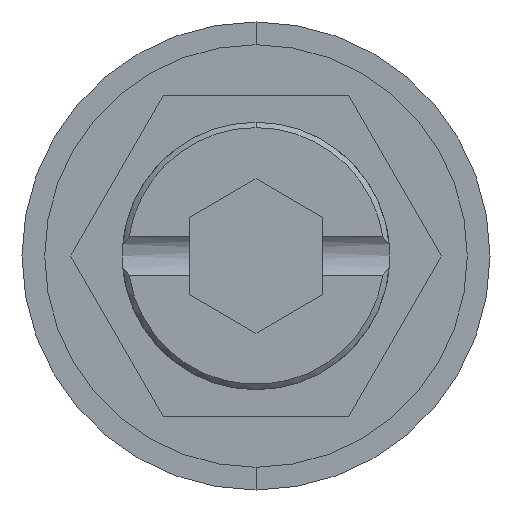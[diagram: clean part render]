
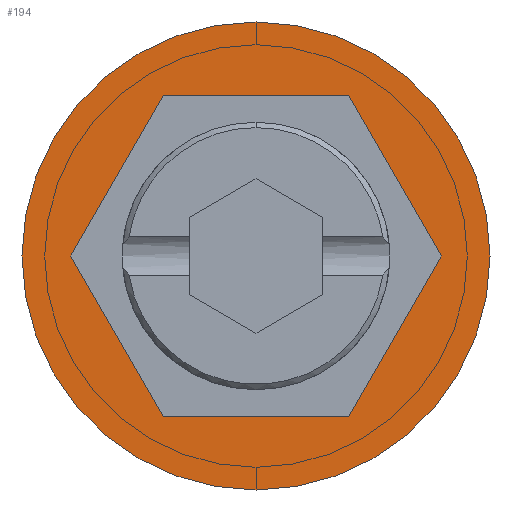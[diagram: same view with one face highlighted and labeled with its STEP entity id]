
A CAD part, front view. The second image highlights one B-rep face of the part: STEP entity #194.
In plain terms, the highlighted planar face has unit normal (0, -1, 0).
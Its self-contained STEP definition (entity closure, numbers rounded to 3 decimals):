
#68 = AXIS2_PLACEMENT_3D ( 'NONE', #1694, #1696, #1698 ) ;
#96 = VECTOR ( 'NONE', #1178, 1000. ) ;
#108 = LINE ( 'NONE', #1192, #96 ) ;
#155 = VECTOR ( 'NONE', #1467, 1000. ) ;
#164 = LINE ( 'NONE', #1426, #155 ) ;
#194 = ADVANCED_FACE ( 'NONE', ( #507, #498 ), #818, .T. ) ;
#213 = LINE ( 'NONE', #1579, #215 ) ;
#215 = VECTOR ( 'NONE', #1582, 1000. ) ;
#255 = VECTOR ( 'NONE', #1755, 1000. ) ;
#256 = LINE ( 'NONE', #1715, #255 ) ;
#267 = CIRCLE ( 'NONE', #68, 8.75 ) ;
#292 = VECTOR ( 'NONE', #2067, 1000. ) ;
#313 = LINE ( 'NONE', #1981, #292 ) ;
#337 = CARTESIAN_POINT ( 'NONE',  ( 3.464, 0., -6. ) ) ;
#498 = FACE_OUTER_BOUND ( 'NONE', #1615, .T. ) ;
#507 = FACE_BOUND ( 'NONE', #1762, .T. ) ;
#516 = AXIS2_PLACEMENT_3D ( 'NONE', #872, #934, #965 ) ;
#536 = DIRECTION ( 'NONE',  ( 0., 0., -1. ) ) ;
#541 = DIRECTION ( 'NONE',  ( 0., -1., 0. ) ) ;
#543 = CARTESIAN_POINT ( 'NONE',  ( 0., 0., 0. ) ) ;
#658 = LINE ( 'NONE', #765, #660 ) ;
#660 = VECTOR ( 'NONE', #761, 1000. ) ;
#713 = VERTEX_POINT ( 'NONE', #1175 ) ;
#726 = CARTESIAN_POINT ( 'NONE',  ( 0., 0., 8.75 ) ) ;
#761 = DIRECTION ( 'NONE',  ( 0.5, 0., 0.866 ) ) ;
#765 = CARTESIAN_POINT ( 'NONE',  ( 3.464, 0., -6. ) ) ;
#818 = PLANE ( 'NONE',  #516 ) ;
#867 = VERTEX_POINT ( 'NONE', #2047 ) ;
#872 = CARTESIAN_POINT ( 'NONE',  ( 0., 0., 0. ) ) ;
#911 = VERTEX_POINT ( 'NONE', #2222 ) ;
#921 = VERTEX_POINT ( 'NONE', #2234 ) ;
#934 = DIRECTION ( 'NONE',  ( 0., -1., 0. ) ) ;
#965 = DIRECTION ( 'NONE',  ( 0., 0., -1. ) ) ;
#1028 = ORIENTED_EDGE ( 'NONE', *, *, #1763, .T. ) ;
#1031 = ORIENTED_EDGE ( 'NONE', *, *, #1148, .T. ) ;
#1036 = ORIENTED_EDGE ( 'NONE', *, *, #1644, .F. ) ;
#1047 = ORIENTED_EDGE ( 'NONE', *, *, #1469, .F. ) ;
#1051 = ORIENTED_EDGE ( 'NONE', *, *, #1383, .F. ) ;
#1056 = ORIENTED_EDGE ( 'NONE', *, *, #1296, .F. ) ;
#1058 = ORIENTED_EDGE ( 'NONE', *, *, #1198, .F. ) ;
#1066 = ORIENTED_EDGE ( 'NONE', *, *, #1070, .F. ) ;
#1070 = EDGE_CURVE ( 'NONE', #867, #2105, #313, .T. ) ;
#1148 = EDGE_CURVE ( 'NONE', #713, #1666, #267, .T. ) ;
#1175 = CARTESIAN_POINT ( 'NONE',  ( 0., 0., -8.75 ) ) ;
#1178 = DIRECTION ( 'NONE',  ( -0.5, 0., 0.866 ) ) ;
#1192 = CARTESIAN_POINT ( 'NONE',  ( 6.928, 0., 0. ) ) ;
#1198 = EDGE_CURVE ( 'NONE', #1442, #867, #256, .T. ) ;
#1267 = CARTESIAN_POINT ( 'NONE',  ( -6.928, 0., 0. ) ) ;
#1296 = EDGE_CURVE ( 'NONE', #1316, #1442, #213, .T. ) ;
#1316 = VERTEX_POINT ( 'NONE', #1927 ) ;
#1325 = AXIS2_PLACEMENT_3D ( 'NONE', #543, #541, #536 ) ;
#1383 = EDGE_CURVE ( 'NONE', #921, #1316, #164, .T. ) ;
#1426 = CARTESIAN_POINT ( 'NONE',  ( 3.464, 0., 6. ) ) ;
#1442 = VERTEX_POINT ( 'NONE', #1267 ) ;
#1467 = DIRECTION ( 'NONE',  ( -1., 0., 0. ) ) ;
#1469 = EDGE_CURVE ( 'NONE', #911, #921, #108, .T. ) ;
#1579 = CARTESIAN_POINT ( 'NONE',  ( -3.464, 0., 6. ) ) ;
#1582 = DIRECTION ( 'NONE',  ( -0.5, 0., -0.866 ) ) ;
#1615 = EDGE_LOOP ( 'NONE', ( #1031, #1028 ) ) ;
#1644 = EDGE_CURVE ( 'NONE', #2105, #911, #658, .T. ) ;
#1666 = VERTEX_POINT ( 'NONE', #726 ) ;
#1694 = CARTESIAN_POINT ( 'NONE',  ( 0., 0., 0. ) ) ;
#1696 = DIRECTION ( 'NONE',  ( 0., -1., 0. ) ) ;
#1698 = DIRECTION ( 'NONE',  ( 0., 0., -1. ) ) ;
#1715 = CARTESIAN_POINT ( 'NONE',  ( -6.928, 0., 0. ) ) ;
#1755 = DIRECTION ( 'NONE',  ( 0.5, 0., -0.866 ) ) ;
#1762 = EDGE_LOOP ( 'NONE', ( #1066, #1058, #1056, #1051, #1047, #1036 ) ) ;
#1763 = EDGE_CURVE ( 'NONE', #1666, #713, #2119, .T. ) ;
#1927 = CARTESIAN_POINT ( 'NONE',  ( -3.464, 0., 6. ) ) ;
#1981 = CARTESIAN_POINT ( 'NONE',  ( -3.464, 0., -6. ) ) ;
#2047 = CARTESIAN_POINT ( 'NONE',  ( -3.464, 0., -6. ) ) ;
#2067 = DIRECTION ( 'NONE',  ( 1., 0., 0. ) ) ;
#2105 = VERTEX_POINT ( 'NONE', #337 ) ;
#2119 = CIRCLE ( 'NONE', #1325, 8.75 ) ;
#2222 = CARTESIAN_POINT ( 'NONE',  ( 6.928, 0., 0. ) ) ;
#2234 = CARTESIAN_POINT ( 'NONE',  ( 3.464, 0., 6. ) ) ;
